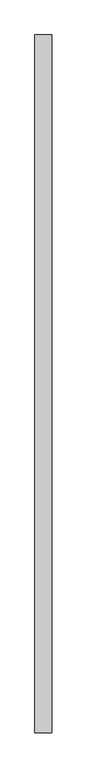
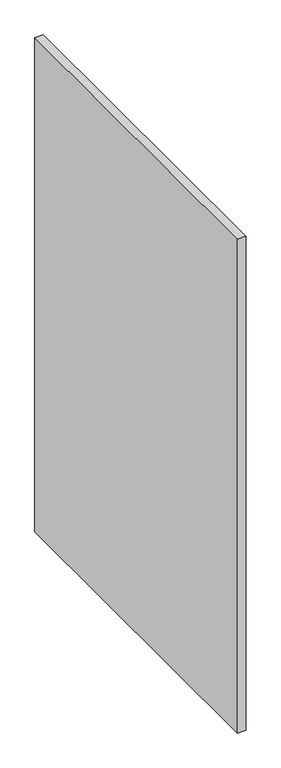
"""IFC4 building model written with IfcOpenShell, lengths in millimetres: furniture geometry, Divisoria_Lateral Fechada : Divisoria_Lateral Fechada_130x180."""

from ifc_helpers import new_model, si_unit, frame, origin, place, context, project, spatial, polyline, outline, extrude, source, transform, mapped, element, save


def furniture_44196881(model_context):
    return source(origin(), model_context, "Body", "SweptSolid", [
        extrude(outline(polyline([(59.7003264, -50.0), (29.7003264, -50.0), (29.7003264, 1195.1204454), (59.7003264, 1195.1204454), (59.7003264, -50.0)])), frame((0.0, 0.0, 50.0), z_axis=(0.0, 0.0, 1.0), x_axis=(1.0, 0.0, 0.0)), (0.0, 0.0, 1.0), 1850.0),
    ])


if __name__ == "__main__":
    model = new_model("IFC4")
    model_context = context("Model", 3, world=origin())
    ifc_project = project(units=[si_unit("LENGTHUNIT", "METRE", prefix="MILLI")], contexts=[model_context])
    site = spatial("IfcSite", under=ifc_project)
    building = spatial("IfcBuilding", under=site)
    placement = place(None, origin())
    furniture_shape = furniture_44196881(model_context)
    element("IfcFurniture", 1, ObjectType="Divisoria_Lateral Fechada : Divisoria_Lateral Fechada_130x180", at=placement, inside=building, context=model_context, shape_type="MappedRepresentation", body=[
        mapped(furniture_shape, transform((0.0, 0.0, 0.0), x_axis=(1.0, 0.0, 0.0), y_axis=(0.0, 1.0, 0.0), z_axis=(0.0, 0.0, 1.0))),
    ])
    save(model, "model.ifc")
